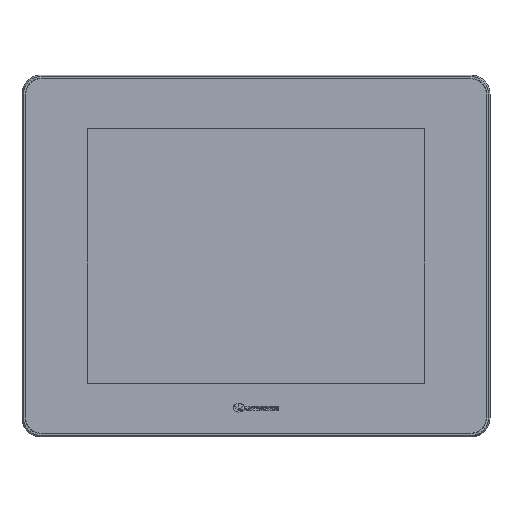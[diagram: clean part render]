
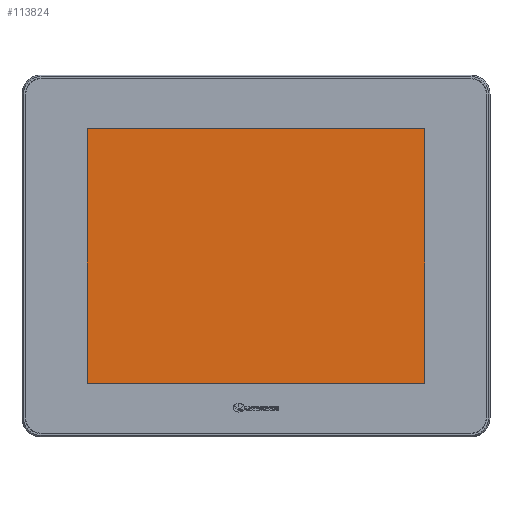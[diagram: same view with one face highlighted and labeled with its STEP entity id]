
A CAD part, top view. The second image highlights one B-rep face of the part: STEP entity #113824.
In plain terms, the highlighted planar face has unit normal (0, 0, 1).
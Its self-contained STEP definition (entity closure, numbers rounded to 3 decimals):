
#605 = LINE ( 'NONE', #618, #118852 ) ;
#607 = LINE ( 'NONE', #622, #118863 ) ;
#618 = CARTESIAN_POINT ( 'NONE',  ( -106.6, 80.55, 0. ) ) ;
#620 = DIRECTION ( 'NONE',  ( 0., -1., 0. ) ) ;
#622 = CARTESIAN_POINT ( 'NONE',  ( -106.6, -80.55, 0. ) ) ;
#625 = DIRECTION ( 'NONE',  ( 1., 0., 0. ) ) ;
#627 = LINE ( 'NONE', #630, #118861 ) ;
#630 = CARTESIAN_POINT ( 'NONE',  ( 106.6, -80.55, 0. ) ) ;
#632 = DIRECTION ( 'NONE',  ( 0., 1., 0. ) ) ;
#634 = LINE ( 'NONE', #636, #118865 ) ;
#636 = CARTESIAN_POINT ( 'NONE',  ( 106.6, 80.55, 0. ) ) ;
#638 = DIRECTION ( 'NONE',  ( -1., 0., 0. ) ) ;
#34989 = VERTEX_POINT ( 'NONE', #53324 ) ;
#53324 = CARTESIAN_POINT ( 'NONE',  ( 106.6, -80.55, 0. ) ) ;
#54862 = EDGE_CURVE ( 'NONE', #69952, #69966, #605, .T. ) ;
#54864 = EDGE_CURVE ( 'NONE', #69966, #34989, #607, .T. ) ;
#54866 = EDGE_CURVE ( 'NONE', #34989, #69969, #627, .T. ) ;
#54868 = EDGE_CURVE ( 'NONE', #69969, #69952, #634, .T. ) ;
#69404 = ORIENTED_EDGE ( 'NONE', *, *, #54862, .T. ) ;
#69405 = ORIENTED_EDGE ( 'NONE', *, *, #54864, .T. ) ;
#69407 = ORIENTED_EDGE ( 'NONE', *, *, #54866, .T. ) ;
#69408 = ORIENTED_EDGE ( 'NONE', *, *, #54868, .T. ) ;
#69952 = VERTEX_POINT ( 'NONE', #70756 ) ;
#69966 = VERTEX_POINT ( 'NONE', #70701 ) ;
#69969 = VERTEX_POINT ( 'NONE', #70774 ) ;
#70701 = CARTESIAN_POINT ( 'NONE',  ( -106.6, -80.55, 0. ) ) ;
#70756 = CARTESIAN_POINT ( 'NONE',  ( -106.6, 80.55, 0. ) ) ;
#70774 = CARTESIAN_POINT ( 'NONE',  ( 106.6, 80.55, 0. ) ) ;
#75213 = EDGE_LOOP ( 'NONE', ( #69404, #69405, #69407, #69408 ) ) ;
#83802 = AXIS2_PLACEMENT_3D ( 'NONE', #91282, #94350, #94352 ) ;
#91282 = CARTESIAN_POINT ( 'NONE',  ( -112.652, -86.384, 0. ) ) ;
#91308 = FACE_OUTER_BOUND ( 'NONE', #75213, .T. ) ;
#91311 = PLANE ( 'NONE',  #83802 ) ;
#94350 = DIRECTION ( 'NONE',  ( 0., 0., 1. ) ) ;
#94352 = DIRECTION ( 'NONE',  ( 1., 0., 0. ) ) ;
#113824 = ADVANCED_FACE ( 'NONE', ( #91308 ), #91311, .T. ) ;
#118852 = VECTOR ( 'NONE', #620, 1000. ) ;
#118861 = VECTOR ( 'NONE', #632, 1000. ) ;
#118863 = VECTOR ( 'NONE', #625, 1000. ) ;
#118865 = VECTOR ( 'NONE', #638, 1000. ) ;
